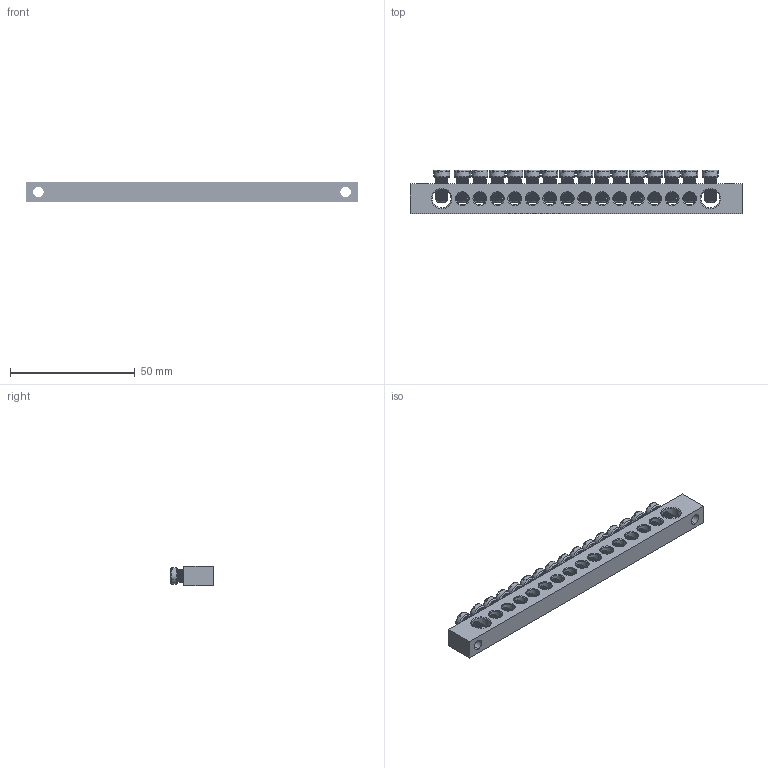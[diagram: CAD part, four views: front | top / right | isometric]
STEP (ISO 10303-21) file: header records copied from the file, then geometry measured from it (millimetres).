
FILE_DESCRIPTION (( 'STEP AP214' ), '1' );
FILE_NAME ('278013 OptiKit BB-PEN-S-16-8õ12-2.STEP', '2020-02-07T06:47:03', ( '' ), ( '' ), 'SwSTEP 2.0', 'SolidWorks 2018', '' );
FILE_SCHEMA (( 'AUTOMOTIVE_DESIGN' ));
Length unit declared in the file: millimetre
Products named in the file (3): Âèíò ì5; Øèíà 8õ12 16 2; 278013 OptiKit BB-PEN-S-16-8õ12-2
Assembly tree (17 placements, depth 2):
  278013 OptiKit BB-PEN-S-16-8õ12-2
    Øèíà 8õ12 16 2
    Âèíò ì5  x16
Bounding box: 133 x 17.3 x 8 mm (x, y, z)
Volume: 12790.7 mm3; surface area: 12741.3 mm2
Topology: 17 solids, 17 shells, 1338 faces, 3704 edges, 2384 vertices
Faces by surface type: cylinder 516, plane 438, cone 224, torus 112, bspline 48
Entity records: 10011 total; most frequent: CARTESIAN_POINT 4215, ORIENTED_EDGE 1104, DIRECTION 1093, EDGE_CURVE 552, AXIS2_PLACEMENT_3D 435, VERTEX_POINT 344, EDGE_LOOP 282, LINE 223
